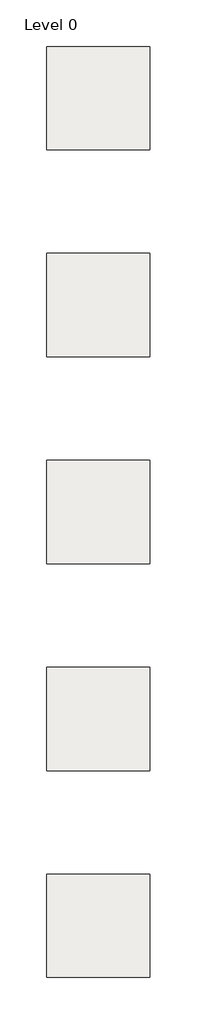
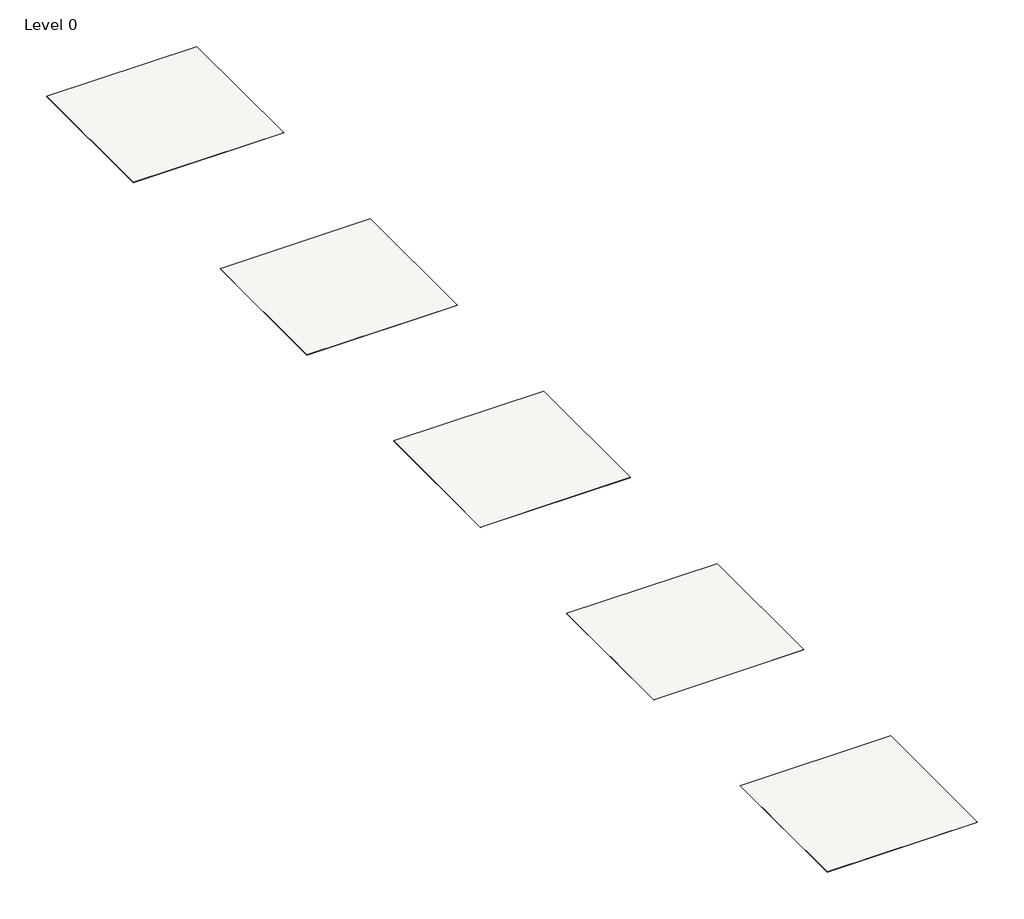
# One storey: 5 coverings.
"""IFC4 building model written with IfcOpenShell, lengths in millimetres."""

from ifc_helpers import new_model, si_unit, origin, origin_with_axes, place, context, project, spatial, polyline, outline, extrude, element, save

model = new_model("IFC4")

# Units and contexts
model_context = context("Model", 3, world=origin())
ifc_project = project(units=[si_unit("LENGTHUNIT", "METRE", prefix="MILLI")], contexts=[model_context])

# Site, building, storey
site = spatial("IfcSite", under=ifc_project)
building = spatial("IfcBuilding", under=site)
storey = spatial("IfcBuildingStorey", under=building, Name="Level 0", Elevation=0.0)

# Coverings
placement = place(None, origin())
element("IfcCovering", 1, ObjectType="NBS_Zentia_ModularSuspendedCeilingSystems_DecoMeshR28-NexusLayouts_NexusARRAY", at=placement, inside=storey, context=model_context, shape_type="SweptSolid", body=[
    extrude(outline(polyline([(-976.0, -4024.0), (-976.0, -1524.0), (1524.0, -1524.0), (1524.0, -4024.0), (-976.0, -4024.0)])), origin_with_axes(), (0.0, 0.0, 1.0), 4.0),
])
element("IfcCovering", 2, ObjectType="NBS_Zentia_ModularSuspendedCeilingSystems_DecoMeshR28-NexusLayouts_NexusBERG", at=placement, inside=storey, context=model_context, shape_type="SweptSolid", body=[
    extrude(outline(polyline([(-976.0, -9024.0), (-976.0, -6524.0), (1524.0, -6524.0), (1524.0, -9024.0), (-976.0, -9024.0)])), origin_with_axes(), (0.0, 0.0, 1.0), 4.0),
])
element("IfcCovering", 3, ObjectType="NBS_Zentia_ModularSuspendedCeilingSystems_DecoMeshR28-NexusLayouts_NexusEXCLAIM", at=placement, inside=storey, context=model_context, shape_type="SweptSolid", body=[
    extrude(outline(polyline([(-976.0, -14024.0), (-976.0, -11524.0), (1524.0, -11524.0), (1524.0, -14024.0), (-976.0, -14024.0)])), origin_with_axes(), (0.0, 0.0, 1.0), 4.0),
])
element("IfcCovering", 4, ObjectType="NBS_Zentia_ModularSuspendedCeilingSystems_DecoMeshR28-NexusLayouts_NexusPIXAL", at=placement, inside=storey, context=model_context, shape_type="SweptSolid", body=[
    extrude(outline(polyline([(-976.0, -19024.0), (-976.0, -16524.0), (1524.0, -16524.0), (1524.0, -19024.0), (-976.0, -19024.0)])), origin_with_axes(), (0.0, 0.0, 1.0), 4.0),
])
element("IfcCovering", 5, ObjectType="NBS_Zentia_ModularSuspendedCeilingSystems_DecoMeshR28-NexusLayouts_NexusSTEP", at=placement, inside=storey, context=model_context, shape_type="SweptSolid", body=[
    extrude(outline(polyline([(-976.0, -24024.0), (-976.0, -21524.0), (1524.0, -21524.0), (1524.0, -24024.0), (-976.0, -24024.0)])), origin_with_axes(), (0.0, 0.0, 1.0), 4.0),
])

save(model, "model.ifc")
